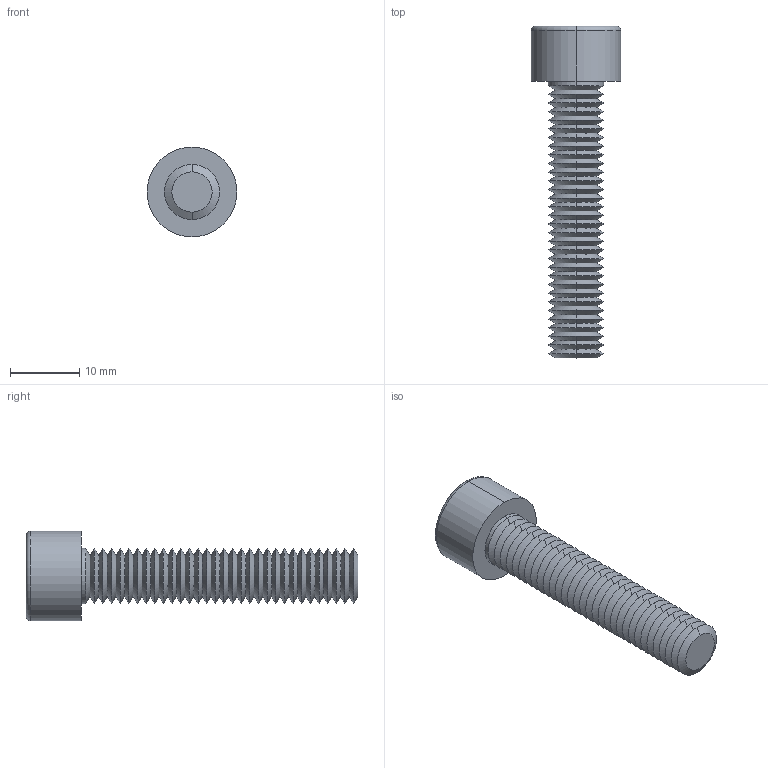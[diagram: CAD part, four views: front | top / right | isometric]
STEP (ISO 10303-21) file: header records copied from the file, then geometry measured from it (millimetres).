
FILE_DESCRIPTION (( 'STEP AP203' ), '1' );
FILE_NAME ('91N.080.0400.step', '2025-05-20T08:54:24', ( '' ), ( '' ), 'SwSTEP 2.0', 'SolidWorks 2019', '' );
FILE_SCHEMA (( 'CONFIG_CONTROL_DESIGN' ));
Length unit declared in the file: millimetre
Products named in the file (1): 91N.080.0400
Bounding box: 13 x 48 x 13 mm (x, y, z)
Volume: 2378.1 mm3; surface area: 2412.2 mm2
Topology: 1 solids, 1 shells, 156 faces, 311 edges, 157 vertices
Faces by surface type: cone 135, plane 15, cylinder 4, torus 2
Entity records: 3978 total; most frequent: DIRECTION 767, CARTESIAN_POINT 650, ORIENTED_EDGE 618, EDGE_CURVE 309, AXIS2_PLACEMENT_3D 308, EDGE_LOOP 158, VERTEX_POINT 157, FACE_OUTER_BOUND 156
